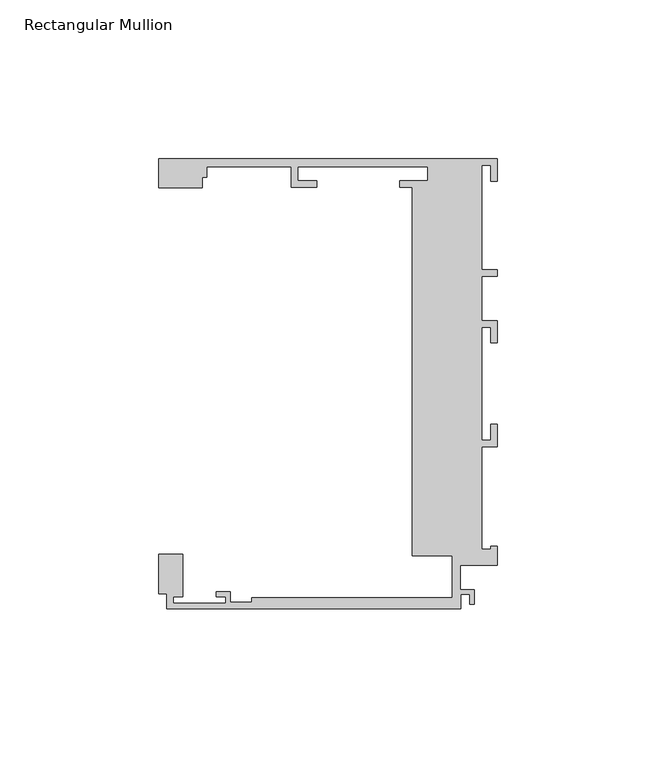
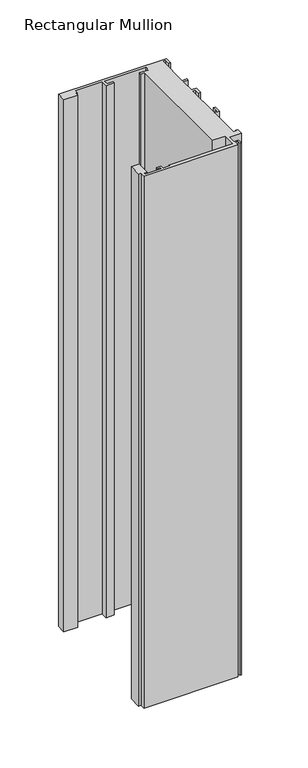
"""IFC4 building model written with IfcOpenShell, lengths in millimetres: member geometry, Rectangular Mullion : Danpal_K12_End-Mullion_B2."""

from ifc_helpers import new_model, si_unit, frame, origin, place, context, project, spatial, polyline, outline, extrude, source, transform, mapped, element, save


def rectangular_mullion_7335db9d(model_context):
    return source(origin(), model_context, "Body", "SweptSolid", [
        extrude(outline(polyline([(-26.6209612, 1.9446289), (-26.6209612, 117.8676658), (-30.6, 117.8676658), (-30.6, 119.8676658), (-21.835, 119.8676658), (-21.835, 124.2676658), (-62.7350275, 124.2676658), (-62.7350275, 119.8676658), (-56.7350275, 119.8676658), (-56.7350275, 117.8676658), (-64.7350275, 117.8676658), (-64.7350275, 124.2676658), (-91.2900275, 124.2676658), (-91.2900275, 121.0676175), (-92.8228167, 121.0676175), (-92.8228167, 117.6986749), (-106.4117426, 117.6986749), (-106.4117426, 126.7676657), (0.0, 126.7676657), (0.0, 119.7676657), (-2.0, 119.7676657), (-2.0, 124.7676657), (-4.8, 124.7676657), (-4.8, 91.8676485), (0.0, 91.8676485), (0.0, 89.8676485), (-4.8, 89.8676485), (-4.8, 75.867683), (0.0, 75.867683), (0.0, 68.8676657), (-2.0, 68.8676657), (-2.0, 73.8676657), (-4.8, 73.8676657), (-4.8, 38.2443486), (-2.0, 38.2443486), (-2.0, 43.2443486), (0.0, 43.2443486), (0.0, 36.2443486), (-4.8, 36.2443486), (-4.8, 3.9448486), (-2.0, 3.9448486), (-2.0, 4.9448486), (0.0, 4.9448486), (0.0, -1.0551514), (-11.6055875, -1.0551514), (-11.6055875, -8.8006425), (-7.1518595, -8.8006425), (-7.1518595, -13.3051514), (-8.6518595, -13.3051514), (-8.6518595, -10.3006425), (-11.4019537, -10.3006425), (-11.4019537, -14.8051514), (-103.8999976, -14.8051514), (-103.8999976, -10.065304), (-106.4117426, -10.065304), (-106.4117426, 2.316674), (-98.8999976, 2.316674), (-98.8999976, -11.0051513), (-101.8999976, -11.0051513), (-101.8999976, -13.0051512), (-85.3999976, -13.0051512), (-85.3999976, -11.0051513), (-88.3999976, -11.0051513), (-88.3999976, -9.5051512), (-83.8999976, -9.5051512), (-83.8999976, -12.8051513), (-77.1531178, -12.8051513), (-77.1531178, -11.3051512), (-14.1055875, -11.3051512), (-14.1055875, 1.9446289), (-26.6209612, 1.9446289)])), frame((0.0, 0.0, -554.2059038), z_axis=(0.0, 0.0, 1.0), x_axis=(1.0, 0.0, 0.0)), (0.0, 0.0, 1.0), 554.2059038),
    ])


if __name__ == "__main__":
    model = new_model("IFC4")
    model_context = context("Model", 3, world=origin())
    ifc_project = project(units=[si_unit("LENGTHUNIT", "METRE", prefix="MILLI")], contexts=[model_context])
    site = spatial("IfcSite", under=ifc_project)
    building = spatial("IfcBuilding", under=site)
    placement = place(None, origin())
    rectangular_mullion_shape = rectangular_mullion_7335db9d(model_context)
    element("IfcMember", 1, ObjectType="Rectangular Mullion : Danpal_K12_End-Mullion_B2", at=placement, inside=building, context=model_context, shape_type="MappedRepresentation", body=[
        mapped(rectangular_mullion_shape, transform((0.0, 0.0, 0.0), x_axis=(1.0, 0.0, 0.0), y_axis=(0.0, 1.0, 0.0), z_axis=(0.0, 0.0, 1.0))),
    ])
    save(model, "model.ifc")
